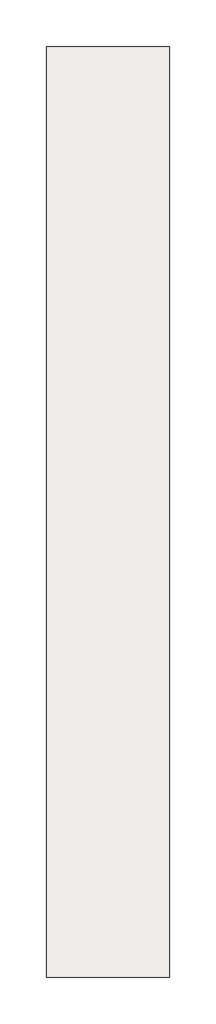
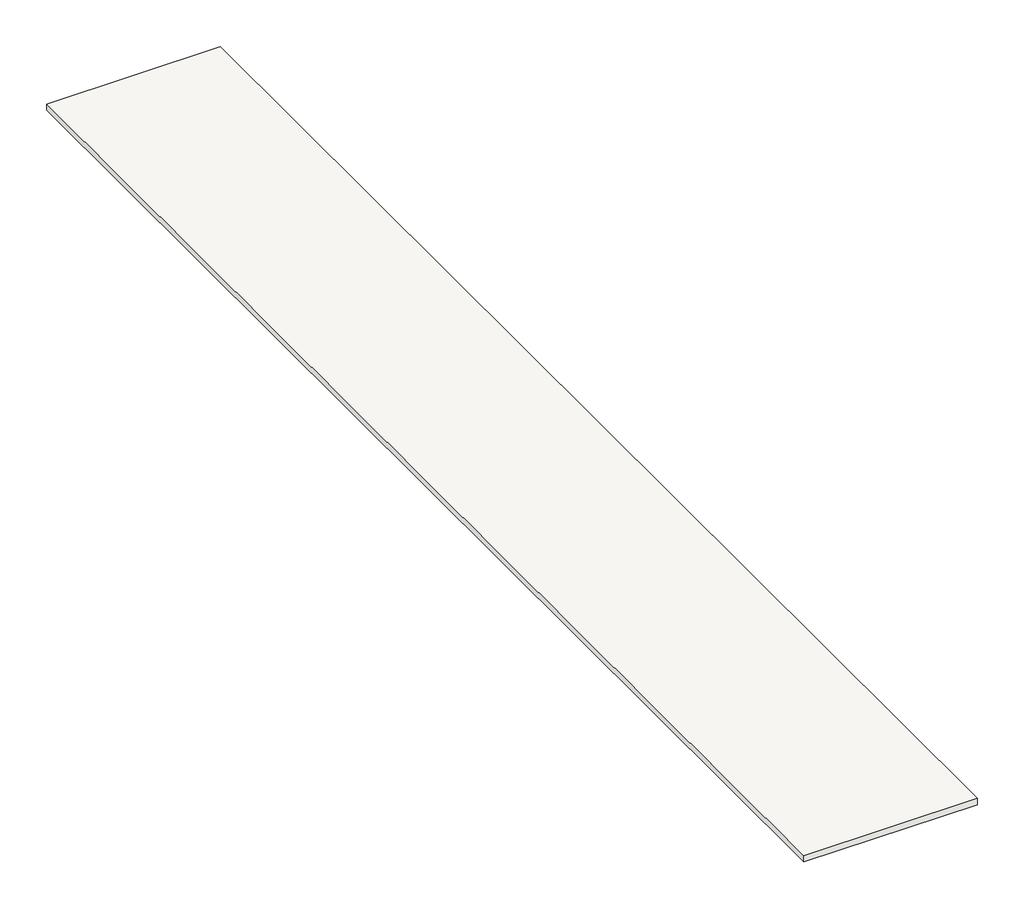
# One storey: 1 covering.
"""IFC4 building model written with IfcOpenShell, lengths in millimetres."""

from ifc_helpers import new_model, si_unit, frame, origin, place, context, project, spatial, polyline, outline, extrude, element, save

model = new_model("IFC4")

# Units and contexts
model_context = context("Model", 3, world=origin())
ifc_project = project(units=[si_unit("LENGTHUNIT", "METRE", prefix="MILLI")], contexts=[model_context])

# Site, building, storey
site = spatial("IfcSite", under=ifc_project)
building = spatial("IfcBuilding", under=site)
storey = spatial("IfcBuildingStorey", under=building, Name="Parrapet", Elevation=1000.0)

# Covering
placement = place(None, origin())
element("IfcCovering", 1, ObjectType="SolidJohn_GARANTIEBETONPLEX_15mm", at=placement, inside=storey, context=model_context, shape_type="SweptSolid", body=[
    extrude(outline(polyline([(-3364.0889074, -8489.9909639), (-3774.0889074, -8489.9909639), (-3774.0889074, -5389.9909639), (-3364.0889074, -5389.9909639), (-3364.0889074, -8489.9909639)])), frame((0.0, 0.0, 985.0), z_axis=(0.0, 0.0, 1.0), x_axis=(1.0, 0.0, 0.0)), (0.0, 0.0, 1.0), 15.0),
])

save(model, "model.ifc")
